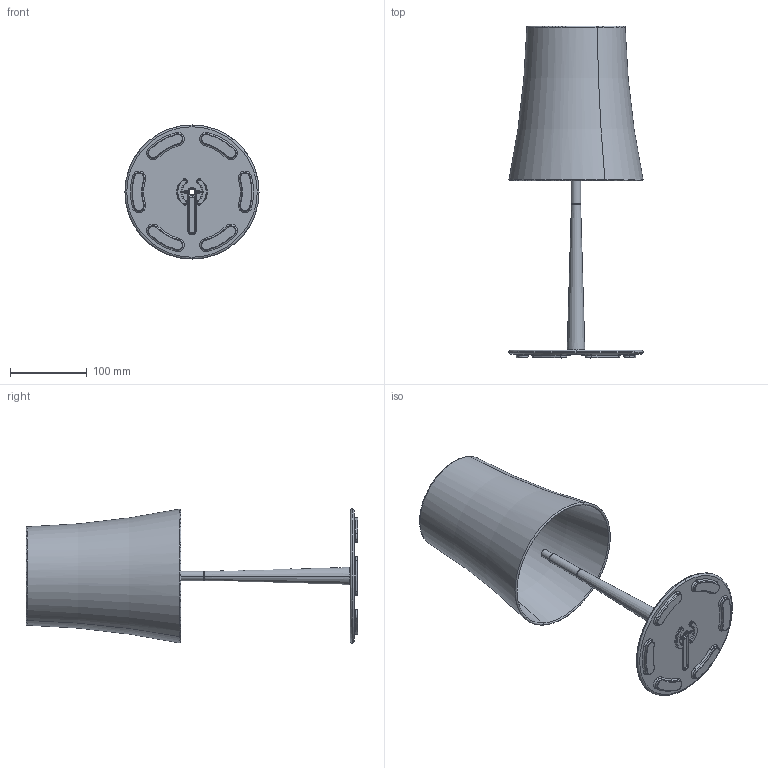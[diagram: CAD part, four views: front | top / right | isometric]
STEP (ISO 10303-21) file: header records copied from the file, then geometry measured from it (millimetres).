
FILE_DESCRIPTION (( 'STEP AP214' ), '1' );
FILE_NAME ('221_EASY-PICCOLA_T_PL_3D.STEP', '2021-05-03T09:13:15', ( '' ), ( '' ), 'SwSTEP 2.0', 'SolidWorks 2021', '' );
FILE_SCHEMA (( 'AUTOMOTIVE_DESIGN' ));
Length unit declared in the file: millimetre
Products named in the file (1): 221_EASY-PICCOLA_T_PL_3D
Bounding box: 174.5 x 431.7 x 174.5 mm (x, y, z)
Volume: 465229.6 mm3; surface area: 262237.4 mm2
Topology: 3 solids, 3 shells, 211 faces, 487 edges, 288 vertices
Faces by surface type: torus 99, cone 70, cylinder 18, plane 16, bspline 8
Entity records: 10167 total; most frequent: CARTESIAN_POINT 2826, DIRECTION 1214, ORIENTED_EDGE 964, AXIS2_PLACEMENT_3D 562, EDGE_CURVE 482, CIRCLE 358, VERTEX_POINT 288, EDGE_LOOP 232
